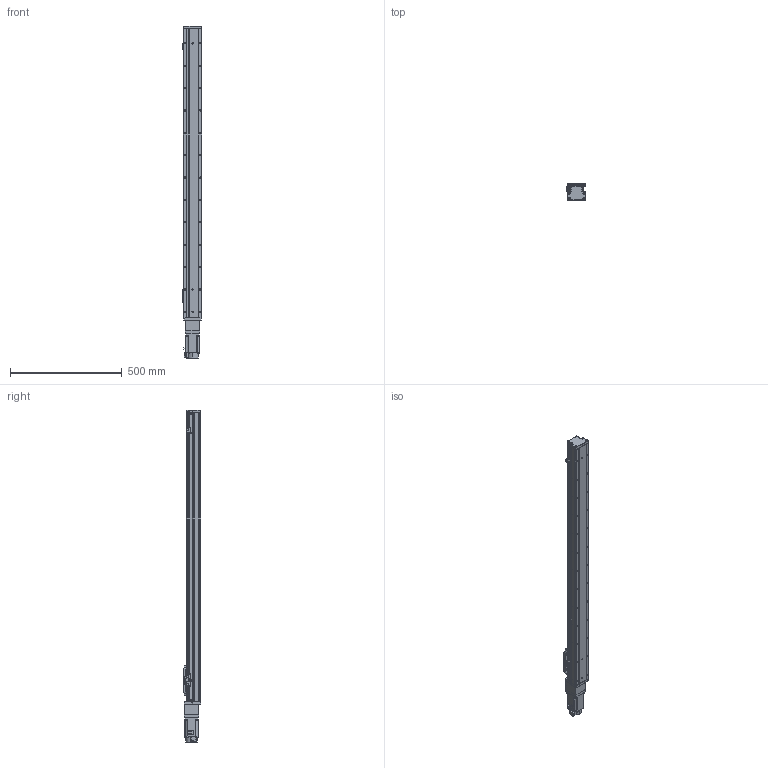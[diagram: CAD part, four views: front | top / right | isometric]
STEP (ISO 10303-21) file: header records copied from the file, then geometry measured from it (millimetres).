
FILE_DESCRIPTION (( 'STEP AP203' ), '1' );
FILE_NAME ('GTH8-1100-BC-M20-C4.step', '2022-09-23T00:53:48', ( '微软用户' ), ( '微软中国' ), 'SwSTEP 2.0', 'SolidWorks 2020', '' );
FILE_SCHEMA (( 'CONFIG_CONTROL_DESIGN' ));
Length unit declared in the file: millimetre
Products named in the file (19): CTHA86-027; GTH80-006; GTH50-024; hg-kn43j_-s100_; GTH80-013; GTH50-023; GTH8-1100-BC-M20-C4; GBT 70.3-M3℅6; GBT96.1-2002 3×0.8; GTH80-022; BTH-M3X5X6; GTH80-001_1100; GBT 70.1-M3℅6; CTHA86-006-1_CTHA86-006-2; GTH80-003; GBT 70.1-M4×16; CTHA86-013; GTH80-004; GTH80-028
Assembly tree (60 placements, depth 2):
  GTH8-1100-BC-M20-C4
    GTH80-001_1100
    GTH80-003
    GTH80-004
    GTH80-006
    GTH80-013
    GBT 70.3-M3℅6  x6
    GTH80-022
    GBT 70.1-M3℅6  x14
    GBT 70.1-M4×16  x8
    GTH80-028  x2
    GTH50-024  x3
    GTH50-023  x3
    GBT96.1-2002 3×0.8  x6
    BTH-M3X5X6  x8
    CTHA86-006-1_CTHA86-006-2
    CTHA86-013
    CTHA86-027
    hg-kn43j_-s100_
Bounding box: 86.9 x 78 x 1482.7 mm (x, y, z)
Volume: 6392164.8 mm3; surface area: 615319.2 mm2
Topology: 62 solids, 62 shells, 2251 faces, 5188 edges, 3163 vertices
Faces by surface type: plane 1173, cylinder 621, cone 285, torus 162, sphere 8, bspline 2
Entity records: 39556 total; most frequent: CARTESIAN_POINT 6527, DIRECTION 6506, ORIENTED_EDGE 5966, EDGE_CURVE 2983, AXIS2_PLACEMENT_3D 2284, VECTOR 1938, LINE 1938, VERTEX_POINT 1876
